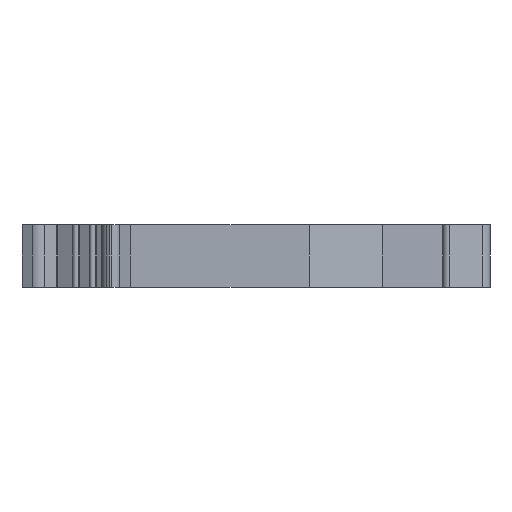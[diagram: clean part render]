
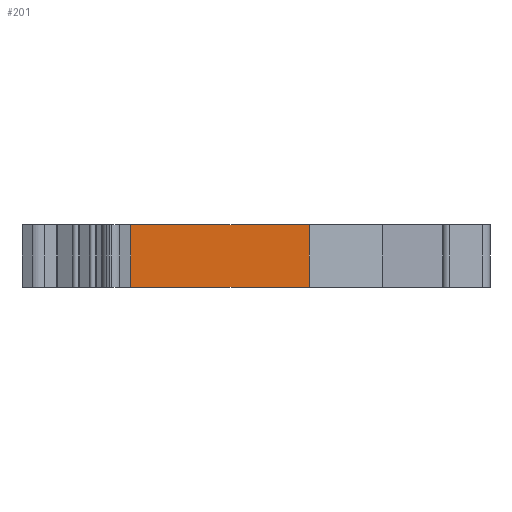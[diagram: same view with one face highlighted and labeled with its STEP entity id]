
A CAD part, left-side view. The second image highlights one B-rep face of the part: STEP entity #201.
In plain terms, the highlighted planar face has unit normal (-1, 0, 0).
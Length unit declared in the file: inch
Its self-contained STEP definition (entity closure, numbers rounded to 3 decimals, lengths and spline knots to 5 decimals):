
#201=ADVANCED_FACE('',(#450),#311,.T.);
#311=PLANE('',#3148);
#450=FACE_OUTER_BOUND('',#594,.T.);
#594=EDGE_LOOP('',(#1932,#1933,#1934,#1935));
#702=LINE('',#4209,#1050);
#925=LINE('',#4733,#1273);
#926=LINE('',#4735,#1274);
#927=LINE('',#4737,#1275);
#1050=VECTOR('',#3331,1.);
#1273=VECTOR('',#3870,1.);
#1274=VECTOR('',#3873,1.);
#1275=VECTOR('',#3874,1.);
#1932=ORIENTED_EDGE('',*,*,#2830,.T.);
#1933=ORIENTED_EDGE('',*,*,#2831,.F.);
#1934=ORIENTED_EDGE('',*,*,#2832,.F.);
#1935=ORIENTED_EDGE('',*,*,#2568,.T.);
#2284=VERTEX_POINT('',#4208);
#2285=VERTEX_POINT('',#4210);
#2427=VERTEX_POINT('',#4732);
#2428=VERTEX_POINT('',#4736);
#2568=EDGE_CURVE('',#2285,#2284,#702,.T.);
#2830=EDGE_CURVE('',#2284,#2427,#925,.T.);
#2831=EDGE_CURVE('',#2428,#2427,#926,.T.);
#2832=EDGE_CURVE('',#2285,#2428,#927,.T.);
#3148=AXIS2_PLACEMENT_3D('',#4738,#3875,#3876);
#3331=DIRECTION('',(0.,-1.,0.));
#3870=DIRECTION('',(0.,0.,1.));
#3873=DIRECTION('',(0.,-1.,0.));
#3874=DIRECTION('',(0.,0.,1.));
#3875=DIRECTION('',(-1.,0.,0.));
#3876=DIRECTION('',(0.,1.,0.));
#4208=CARTESIAN_POINT('',(42.31082,23.78095,0.));
#4209=CARTESIAN_POINT('',(42.31082,24.47387,0.));
#4210=CARTESIAN_POINT('',(42.31082,24.47387,0.));
#4732=CARTESIAN_POINT('',(42.31082,23.78095,0.24409));
#4733=CARTESIAN_POINT('',(42.31082,23.78095,0.));
#4735=CARTESIAN_POINT('',(42.31082,24.47387,0.24409));
#4736=CARTESIAN_POINT('',(42.31082,24.47387,0.24409));
#4737=CARTESIAN_POINT('',(42.31082,24.47387,0.));
#4738=CARTESIAN_POINT('',(42.31082,24.47387,0.));
